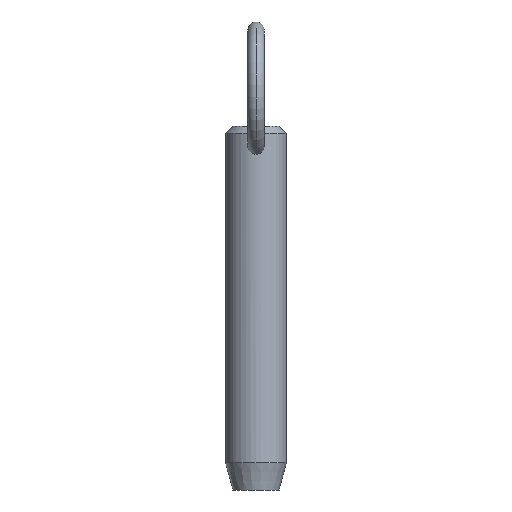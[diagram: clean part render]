
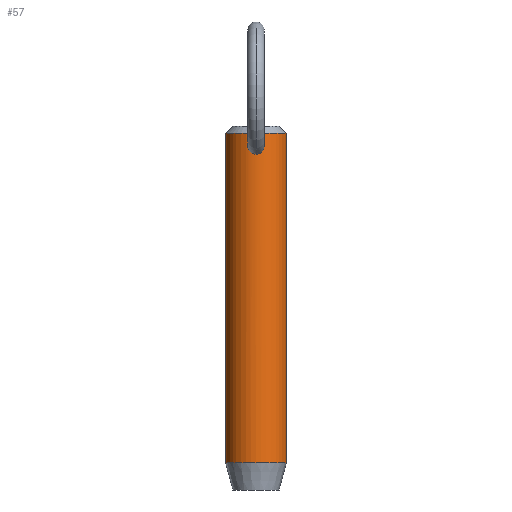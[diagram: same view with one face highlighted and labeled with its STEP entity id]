
A CAD part, front view. The second image highlights one B-rep face of the part: STEP entity #57.
In plain terms, the highlighted cylindrical face has radius 5.55 mm (diameter 11.1 mm), a partial arc.
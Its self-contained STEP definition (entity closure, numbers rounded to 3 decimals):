
#3 = VECTOR ( 'NONE', #28, 1000. ) ;
#8 = EDGE_CURVE ( 'NONE', #364, #488, #225, .T. ) ;
#15 = CARTESIAN_POINT ( 'NONE',  ( 5.55, 0., 45.7 ) ) ;
#21 = CARTESIAN_POINT ( 'NONE',  ( 1.055, -5.449, 47.405 ) ) ;
#22 = ORIENTED_EDGE ( 'NONE', *, *, #414, .T. ) ;
#24 = FACE_BOUND ( 'NONE', #521, .T. ) ;
#28 = DIRECTION ( 'NONE',  ( 0., 0., -1. ) ) ;
#38 = CARTESIAN_POINT ( 'NONE',  ( 1.477, -5.35, 48.244 ) ) ;
#57 = ADVANCED_FACE ( 'NONE', ( #454, #24 ), #240, .T. ) ;
#61 = B_SPLINE_CURVE_WITH_KNOTS ( 'NONE', 3,
 ( #463, #350, #310, #146, #353, #400, #235, #150, #307, #231, #399, #511, #469, #501, #440, #437, #264, #97, #396, #473, #199, #275, #195, #309, #269, #105 ),
 .UNSPECIFIED., .F., .F.,
 ( 4, 2, 2, 2, 2, 2, 2, 2, 2, 2, 2, 2, 4 ),
 ( 0.01, 0.01, 0.01, 0.011, 0.011, 0.012, 0.012, 0.012, 0.013, 0.013, 0.014, 0.014, 0.015 ),
 .UNSPECIFIED. ) ;
#66 = ORIENTED_EDGE ( 'NONE', *, *, #285, .F. ) ;
#76 = CARTESIAN_POINT ( 'NONE',  ( 0.214, -5.547, 50.428 ) ) ;
#79 = CARTESIAN_POINT ( 'NONE',  ( 0., -5.55, 50.445 ) ) ;
#92 = VERTEX_POINT ( 'NONE', #487 ) ;
#97 = CARTESIAN_POINT ( 'NONE',  ( -1.294, -5.398, 49.486 ) ) ;
#101 = LINE ( 'NONE', #15, #196 ) ;
#104 = CARTESIAN_POINT ( 'NONE',  ( 0., -5.55, 46.977 ) ) ;
#105 = CARTESIAN_POINT ( 'NONE',  ( 0., -5.55, 50.445 ) ) ;
#108 = CARTESIAN_POINT ( 'NONE',  ( 1.363, -5.38, 47.834 ) ) ;
#117 = EDGE_CURVE ( 'NONE', #488, #168, #333, .T. ) ;
#120 = VERTEX_POINT ( 'NONE', #300 ) ;
#146 = CARTESIAN_POINT ( 'NONE',  ( -0.42, -5.535, 47.032 ) ) ;
#148 = CARTESIAN_POINT ( 'NONE',  ( 1.26, -5.407, 47.643 ) ) ;
#150 = CARTESIAN_POINT ( 'NONE',  ( -0.976, -5.464, 47.331 ) ) ;
#153 = CIRCLE ( 'NONE', #183, 5.55 ) ;
#168 = VERTEX_POINT ( 'NONE', #267 ) ;
#172 = CARTESIAN_POINT ( 'NONE',  ( 1.44, -5.36, 49.086 ) ) ;
#173 = EDGE_CURVE ( 'NONE', #120, #92, #61, .T. ) ;
#177 = ORIENTED_EDGE ( 'NONE', *, *, #117, .T. ) ;
#182 = CARTESIAN_POINT ( 'NONE',  ( -5.55, 0., -9.2 ) ) ;
#183 = AXIS2_PLACEMENT_3D ( 'NONE', #503, #306, #229 ) ;
#192 = CARTESIAN_POINT ( 'NONE',  ( 0.977, -5.464, 47.332 ) ) ;
#195 = CARTESIAN_POINT ( 'NONE',  ( -0.416, -5.535, 50.367 ) ) ;
#196 = VECTOR ( 'NONE', #334, 1000. ) ;
#199 = CARTESIAN_POINT ( 'NONE',  ( -0.785, -5.497, 50.158 ) ) ;
#205 = ORIENTED_EDGE ( 'NONE', *, *, #173, .T. ) ;
#218 = CARTESIAN_POINT ( 'NONE',  ( 0.106, -5.55, 50.445 ) ) ;
#225 = LINE ( 'NONE', #246, #3 ) ;
#229 = DIRECTION ( 'NONE',  ( 1., 0., 0. ) ) ;
#231 = CARTESIAN_POINT ( 'NONE',  ( -1.26, -5.407, 47.642 ) ) ;
#235 = CARTESIAN_POINT ( 'NONE',  ( -0.807, -5.492, 47.205 ) ) ;
#236 = CARTESIAN_POINT ( 'NONE',  ( 0.523, -5.526, 47.066 ) ) ;
#238 = CARTESIAN_POINT ( 'NONE',  ( 0.107, -5.55, 46.977 ) ) ;
#240 = CYLINDRICAL_SURFACE ( 'NONE', #390, 5.55 ) ;
#244 = CARTESIAN_POINT ( 'NONE',  ( 0., 0., 45.7 ) ) ;
#246 = CARTESIAN_POINT ( 'NONE',  ( -5.55, 0., 45.7 ) ) ;
#254 = CARTESIAN_POINT ( 'NONE',  ( 1.194, -5.422, 49.671 ) ) ;
#260 = DIRECTION ( 'NONE',  ( 0., 0., 1. ) ) ;
#264 = CARTESIAN_POINT ( 'NONE',  ( -1.44, -5.36, 49.087 ) ) ;
#267 = CARTESIAN_POINT ( 'NONE',  ( 5.55, 0., -9.2 ) ) ;
#269 = CARTESIAN_POINT ( 'NONE',  ( -0.106, -5.55, 50.445 ) ) ;
#270 = CARTESIAN_POINT ( 'NONE',  ( 0.421, -5.535, 47.032 ) ) ;
#275 = CARTESIAN_POINT ( 'NONE',  ( -0.513, -5.527, 50.323 ) ) ;
#285 = EDGE_CURVE ( 'NONE', #515, #168, #101, .T. ) ;
#290 = CARTESIAN_POINT ( 'NONE',  ( 1.295, -5.397, 49.482 ) ) ;
#300 = CARTESIAN_POINT ( 'NONE',  ( 0., -5.55, 46.977 ) ) ;
#306 = DIRECTION ( 'NONE',  ( 0., 0., -1. ) ) ;
#307 = CARTESIAN_POINT ( 'NONE',  ( -1.054, -5.449, 47.404 ) ) ;
#309 = CARTESIAN_POINT ( 'NONE',  ( -0.211, -5.547, 50.429 ) ) ;
#310 = CARTESIAN_POINT ( 'NONE',  ( -0.212, -5.547, 46.988 ) ) ;
#326 = DIRECTION ( 'NONE',  ( -1., 0., 0. ) ) ;
#333 = CIRCLE ( 'NONE', #466, 5.55 ) ;
#334 = DIRECTION ( 'NONE',  ( 0., 0., -1. ) ) ;
#348 = CARTESIAN_POINT ( 'NONE',  ( 5.55, 0., 50.75 ) ) ;
#350 = CARTESIAN_POINT ( 'NONE',  ( -0.107, -5.55, 46.977 ) ) ;
#353 = CARTESIAN_POINT ( 'NONE',  ( -0.523, -5.526, 47.066 ) ) ;
#354 = CARTESIAN_POINT ( 'NONE',  ( 0.213, -5.547, 46.988 ) ) ;
#356 = CARTESIAN_POINT ( 'NONE',  ( 1.455, -5.356, 48.138 ) ) ;
#364 = VERTEX_POINT ( 'NONE', #478 ) ;
#370 = CARTESIAN_POINT ( 'NONE',  ( 0.941, -5.471, 50.007 ) ) ;
#376 = CARTESIAN_POINT ( 'NONE',  ( 0.786, -5.497, 50.157 ) ) ;
#384 = ORIENTED_EDGE ( 'NONE', *, *, #502, .T. ) ;
#390 = AXIS2_PLACEMENT_3D ( 'NONE', #244, #516, #326 ) ;
#396 = CARTESIAN_POINT ( 'NONE',  ( -1.195, -5.421, 49.671 ) ) ;
#399 = CARTESIAN_POINT ( 'NONE',  ( -1.362, -5.381, 47.832 ) ) ;
#400 = CARTESIAN_POINT ( 'NONE',  ( -0.716, -5.504, 47.152 ) ) ;
#403 = CARTESIAN_POINT ( 'NONE',  ( 0.807, -5.492, 47.206 ) ) ;
#405 = EDGE_LOOP ( 'NONE', ( #66, #384, #510, #177 ) ) ;
#414 = EDGE_CURVE ( 'NONE', #92, #120, #500, .T. ) ;
#421 = CARTESIAN_POINT ( 'NONE',  ( 0.417, -5.535, 50.367 ) ) ;
#437 = CARTESIAN_POINT ( 'NONE',  ( -1.485, -5.348, 48.879 ) ) ;
#440 = CARTESIAN_POINT ( 'NONE',  ( -1.503, -5.343, 48.559 ) ) ;
#454 = FACE_OUTER_BOUND ( 'NONE', #405, .T. ) ;
#457 = CARTESIAN_POINT ( 'NONE',  ( 0.515, -5.527, 50.322 ) ) ;
#461 = CARTESIAN_POINT ( 'NONE',  ( 1.486, -5.347, 48.874 ) ) ;
#463 = CARTESIAN_POINT ( 'NONE',  ( 0., -5.55, 46.977 ) ) ;
#466 = AXIS2_PLACEMENT_3D ( 'NONE', #493, #260, #497 ) ;
#469 = CARTESIAN_POINT ( 'NONE',  ( -1.477, -5.35, 48.242 ) ) ;
#473 = CARTESIAN_POINT ( 'NONE',  ( -0.939, -5.472, 50.01 ) ) ;
#478 = CARTESIAN_POINT ( 'NONE',  ( -5.55, 0., 50.75 ) ) ;
#487 = CARTESIAN_POINT ( 'NONE',  ( 0., -5.55, 50.445 ) ) ;
#488 = VERTEX_POINT ( 'NONE', #182 ) ;
#490 = CARTESIAN_POINT ( 'NONE',  ( 1.5, -5.343, 48.454 ) ) ;
#493 = CARTESIAN_POINT ( 'NONE',  ( 0., 0., -9.2 ) ) ;
#497 = DIRECTION ( 'NONE',  ( -1., 0., 0. ) ) ;
#500 = B_SPLINE_CURVE_WITH_KNOTS ( 'NONE', 3,
 ( #79, #218, #76, #421, #457, #376, #370, #254, #290, #172, #461, #526, #490, #38, #356, #108, #148, #21, #192, #403, #505, #236, #270, #354, #238, #104 ),
 .UNSPECIFIED., .F., .F.,
 ( 4, 2, 2, 2, 2, 2, 2, 2, 2, 2, 2, 2, 4 ),
 ( 0.005, 0.005, 0.005, 0.006, 0.006, 0.007, 0.007, 0.008, 0.008, 0.009, 0.009, 0.009, 0.01 ),
 .UNSPECIFIED. ) ;
#501 = CARTESIAN_POINT ( 'NONE',  ( -1.5, -5.343, 48.453 ) ) ;
#502 = EDGE_CURVE ( 'NONE', #515, #364, #153, .T. ) ;
#503 = CARTESIAN_POINT ( 'NONE',  ( 0., 0., 50.75 ) ) ;
#505 = CARTESIAN_POINT ( 'NONE',  ( 0.716, -5.504, 47.152 ) ) ;
#510 = ORIENTED_EDGE ( 'NONE', *, *, #8, .T. ) ;
#511 = CARTESIAN_POINT ( 'NONE',  ( -1.455, -5.356, 48.136 ) ) ;
#515 = VERTEX_POINT ( 'NONE', #348 ) ;
#516 = DIRECTION ( 'NONE',  ( 0., 0., -1. ) ) ;
#521 = EDGE_LOOP ( 'NONE', ( #22, #205 ) ) ;
#526 = CARTESIAN_POINT ( 'NONE',  ( 1.503, -5.343, 48.559 ) ) ;
